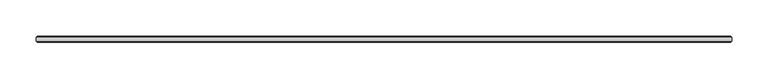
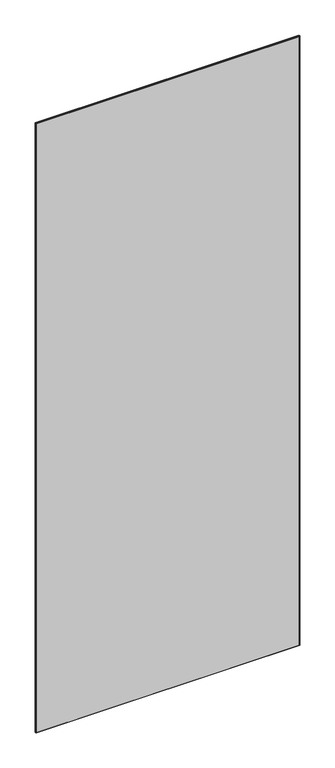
"""IFC4 building model written with IfcOpenShell, lengths in millimetres: plate geometry, 1-AMG-1-Панель одинарный витраж 8, 10 : Смещение 32 Толщина 8mm."""

from ifc_helpers import new_model, si_unit, origin, place, context, project, spatial, faceted_brep, source, transform, mapped, element, save


def plate_df924164(model_context):
    return source(origin(), model_context, "Body", "Brep", [
        faceted_brep([(478.5011719, -29.5038347, 2326.9976562), (-478.5011719, -29.5038347, 2326.9976562), (-478.5011719, -34.4961653, 2326.9976562), (478.5011719, -34.4961653, 2326.9976562), (478.5011719, -34.5039422, -7.0), (-478.5011719, -34.5039422, -7.0), (-478.5011719, -29.5038347, -7.0), (478.5011719, -29.5038347, -7.0), (-476.9973372, -36.0, 2325.4938215), (-476.9973372, -36.0, -5.5039422), (476.9973372, -36.0, -5.5039422), (476.9973372, -36.0, 2325.4938215), (476.9973372, -28.0, 2325.4938215), (476.9973372, -28.0, -5.4961653), (-476.9973372, -28.0, -5.4961653), (-476.9973372, -28.0, 2325.4938215)], [[[0, 1, 2, 3]], [[4, 5, 6, 7]], [[8, 9, 10, 11]], [[1, 6, 5, 2]], [[12, 13, 14, 15]], [[3, 4, 7, 0]], [[3, 11, 10, 4]], [[7, 13, 12, 0]], [[5, 9, 8, 2]], [[1, 15, 14, 6]], [[0, 12, 15, 1]], [[2, 8, 11, 3]], [[6, 14, 13, 7]], [[4, 10, 9, 5]]]),
    ])


if __name__ == "__main__":
    model = new_model("IFC4")
    model_context = context("Model", 3, world=origin())
    ifc_project = project(units=[si_unit("LENGTHUNIT", "METRE", prefix="MILLI")], contexts=[model_context])
    site = spatial("IfcSite", under=ifc_project)
    building = spatial("IfcBuilding", under=site)
    placement = place(None, origin())
    plate_shape = plate_df924164(model_context)
    element("IfcPlate", 1, ObjectType="1-AMG-1-Панель одинарный витраж 8, 10 : Смещение 32 Толщина 8mm", at=placement, inside=building, context=model_context, shape_type="MappedRepresentation", body=[
        mapped(plate_shape, transform((0.0, 0.0, 0.0), x_axis=(1.0, 0.0, 0.0), y_axis=(0.0, 1.0, 0.0), z_axis=(0.0, 0.0, 1.0))),
    ])
    save(model, "model.ifc")
